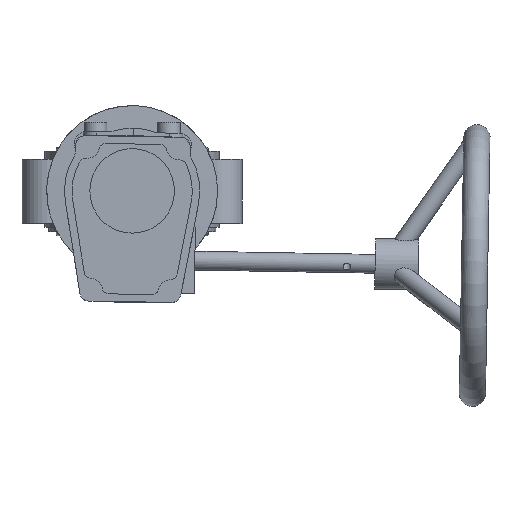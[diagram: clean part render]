
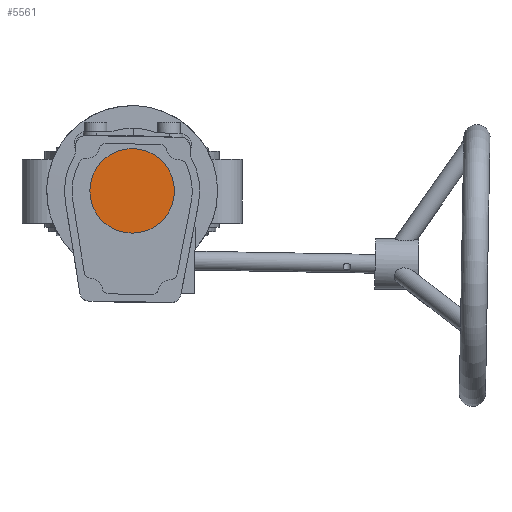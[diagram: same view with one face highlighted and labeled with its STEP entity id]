
A CAD part, top view. The second image highlights one B-rep face of the part: STEP entity #5561.
In plain terms, the highlighted planar face has unit normal (0, 0, 1).
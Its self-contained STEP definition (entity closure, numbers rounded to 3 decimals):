
#183 = CARTESIAN_POINT ( 'NONE',  ( -199.577, 19.211, 26.886 ) ) ;
#916 = CIRCLE ( 'NONE', #3625, 22.5 ) ;
#1057 = EDGE_CURVE ( 'NONE', #7922, #7922, #916, .T. ) ;
#1641 = AXIS2_PLACEMENT_3D ( 'NONE', #5255, #7293, #4564 ) ;
#2832 = CARTESIAN_POINT ( 'NONE',  ( -177.077, 19.211, 26.886 ) ) ;
#3551 = EDGE_LOOP ( 'NONE', ( #7614 ) ) ;
#3625 = AXIS2_PLACEMENT_3D ( 'NONE', #183, #4374, #7212 ) ;
#3911 = FACE_OUTER_BOUND ( 'NONE', #3551, .T. ) ;
#4374 = DIRECTION ( 'NONE',  ( 0., 0., 1. ) ) ;
#4564 = DIRECTION ( 'NONE',  ( 0.044, -0.999, 0. ) ) ;
#5255 = CARTESIAN_POINT ( 'NONE',  ( -199.577, 19.211, 26.886 ) ) ;
#5561 = ADVANCED_FACE ( 'NONE', ( #3911 ), #7351, .T. ) ;
#7212 = DIRECTION ( 'NONE',  ( 1., 0., 0. ) ) ;
#7293 = DIRECTION ( 'NONE',  ( 0., 0., 1. ) ) ;
#7351 = PLANE ( 'NONE',  #1641 ) ;
#7614 = ORIENTED_EDGE ( 'NONE', *, *, #1057, .T. ) ;
#7922 = VERTEX_POINT ( 'NONE', #2832 ) ;
